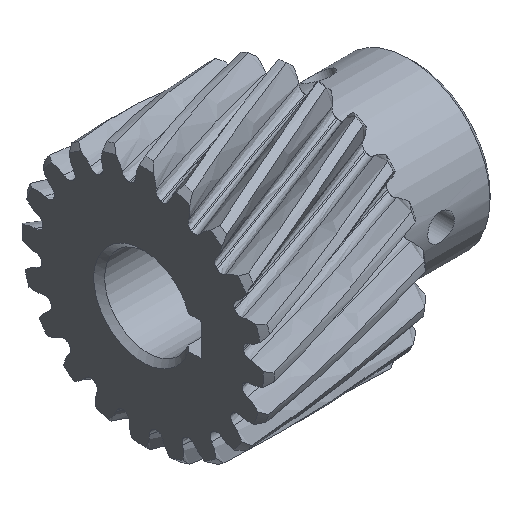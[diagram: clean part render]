
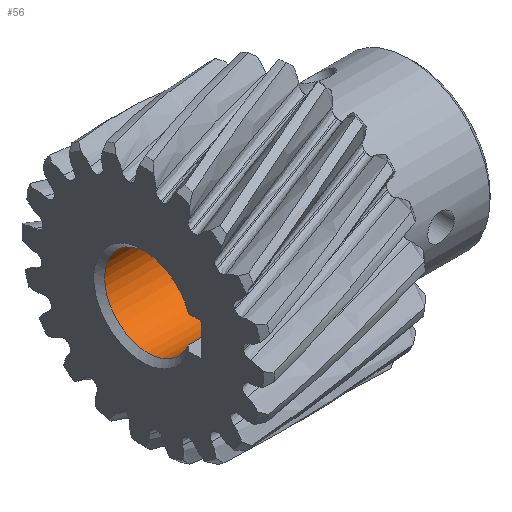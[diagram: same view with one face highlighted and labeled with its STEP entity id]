
A CAD part, isometric view. The second image highlights one B-rep face of the part: STEP entity #56.
In plain terms, the highlighted cylindrical face has radius 4 mm (diameter 8 mm), a partial arc.
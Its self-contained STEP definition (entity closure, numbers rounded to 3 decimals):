
#56=ADVANCED_FACE('',(#1638,#1640),#1642,.F.);
#1638=FACE_BOUND('',#1639,.T.);
#1639=EDGE_LOOP('',(#8973,#8974,#8975,#8976));
#1640=FACE_BOUND('',#1641,.T.);
#1641=EDGE_LOOP('',(#8977));
#1642=CYLINDRICAL_SURFACE('',#1643,4.);
#1643=AXIS2_PLACEMENT_3D('',#1644,#1645,#1646);
#1644=CARTESIAN_POINT('',(0.,0.,0.));
#1645=DIRECTION('',(1.,0.,0.));
#1646=DIRECTION('',(0.,-0.927,-0.375));
#8973=ORIENTED_EDGE('',*,*,#9995,.F.);
#8974=ORIENTED_EDGE('',*,*,#9996,.F.);
#8975=ORIENTED_EDGE('',*,*,#9997,.F.);
#8976=ORIENTED_EDGE('',*,*,#9998,.T.);
#8977=ORIENTED_EDGE('',*,*,#9999,.T.);
#9995=EDGE_CURVE('',#10506,#10507,#10508,.F.);
#9996=EDGE_CURVE('',#10509,#10506,#10510,.T.);
#9997=EDGE_CURVE('',#10511,#10509,#10512,.T.);
#9998=EDGE_CURVE('',#10511,#10507,#10513,.T.);
#9999=EDGE_CURVE('',#10514,#10514,#10515,.T.);
#10506=VERTEX_POINT('',#11360);
#10507=VERTEX_POINT('',#11361);
#10508=CIRCLE('',#11362,4.);
#10509=VERTEX_POINT('',#11366);
#10510=LINE('',#11367,#11368);
#10511=VERTEX_POINT('',#11370);
#10512=CIRCLE('',#11371,4.);
#10513=LINE('',#11375,#11376);
#10514=VERTEX_POINT('',#11378);
#10515=(BOUNDED_CURVE()B_SPLINE_CURVE(3,
(#11379,#11380,#11381,#11382,#11383,#11384,#11385,#11386,#11387,#11388,#11389,#11390,
#11391,#11392,#11393,#11394,#11395,#11396,#11397,#11398,#11399,#11400,#11401,#11402,
#11403,#11404,#11405,#11406,#11407,#11408,#11409,#11410,#11411,#11412,#11413,#11414,
#11415,#11416,#11417,#11418,#11419,#11420,#11421,#11422,#11423,#11424,#11425,#11426,
#11427,#11428,#11429,#11430,#11431,#11432,#11433,#11434,#11435,#11436,#11437,#11438),
.UNSPECIFIED.,.T.,.F.)B_SPLINE_CURVE_WITH_KNOTS((4,1,1,1,1,1,1,1,1,1,1,1,1,1,1,1,
1,1,1,1,1,1,1,1,1,1,1,1,1,1,1,1,1,1,1,1,1,1,1,1,1,1,1,1,1,1,1,1,1,1,1,1,1,1,1,1,
1,4),
(0.,0.02,0.04,0.06,0.077,0.093,
0.107,0.122,0.146,0.171,0.196,
0.218,0.239,0.258,0.272,0.285,
0.3,0.315,0.339,0.362,0.385,
0.4,0.414,0.43,0.448,0.467,
0.483,0.495,0.505,0.515,0.529,
0.546,0.567,0.585,0.6,0.614,
0.63,0.647,0.666,0.684,0.702,
0.719,0.735,0.749,0.763,0.781,
0.8,0.821,0.837,0.853,0.875,
0.9,0.924,0.942,0.955,0.966,
0.981,1.),
.UNSPECIFIED.)CURVE()GEOMETRIC_REPRESENTATION_ITEM()RATIONAL_B_SPLINE_CURVE((1.,
1.,1.,1.,1.,1.,1.,1.,1.,1.,1.,1.,1.,1.,1.,1.,1.,1.,1.,1.,1.,1.,1.,1.,1.,1.,1.,1.,
1.,1.,1.,1.,1.,1.,1.,1.,1.,1.,1.,1.,1.,1.,1.,1.,1.,1.,1.,1.,1.,1.,1.,1.,1.,1.,1.,
1.,1.,1.,1.,1.))REPRESENTATION_ITEM(''));
#11360=CARTESIAN_POINT('',(24.5,-3.708,1.5));
#11361=CARTESIAN_POINT('',(24.5,-3.708,-1.5));
#11362=AXIS2_PLACEMENT_3D('',#11363,#11364,#11365);
#11363=CARTESIAN_POINT('',(24.5,0.,0.));
#11364=DIRECTION('',(1.,0.,0.));
#11365=DIRECTION('',(0.,-0.927,-0.375));
#11366=CARTESIAN_POINT('',(0.5,-3.708,1.5));
#11367=CARTESIAN_POINT('',(0.5,-3.708,1.5));
#11368=VECTOR('',#11369,1.);
#11369=DIRECTION('',(1.,0.,0.));
#11370=CARTESIAN_POINT('',(0.5,-3.708,-1.5));
#11371=AXIS2_PLACEMENT_3D('',#11372,#11373,#11374);
#11372=CARTESIAN_POINT('',(0.5,0.,0.));
#11373=DIRECTION('',(1.,0.,0.));
#11374=DIRECTION('',(0.,-0.927,-0.375));
#11375=CARTESIAN_POINT('',(0.5,-3.708,-1.5));
#11376=VECTOR('',#11377,1.);
#11377=DIRECTION('',(1.,0.,0.));
#11378=CARTESIAN_POINT('',(21.229,2.,3.464));
#11379=CARTESIAN_POINT('',(21.229,2.,3.464));
#11380=CARTESIAN_POINT('',(21.229,2.045,3.438));
#11381=CARTESIAN_POINT('',(21.223,2.133,3.385));
#11382=CARTESIAN_POINT('',(21.194,2.26,3.301));
#11383=CARTESIAN_POINT('',(21.148,2.376,3.219));
#11384=CARTESIAN_POINT('',(21.091,2.475,3.143));
#11385=CARTESIAN_POINT('',(21.029,2.557,3.076));
#11386=CARTESIAN_POINT('',(20.961,2.63,3.015));
#11387=CARTESIAN_POINT('',(20.87,2.708,2.945));
#11388=CARTESIAN_POINT('',(20.748,2.789,2.868));
#11389=CARTESIAN_POINT('',(20.589,2.865,2.792));
#11390=CARTESIAN_POINT('',(20.419,2.919,2.735));
#11391=CARTESIAN_POINT('',(20.249,2.953,2.699));
#11392=CARTESIAN_POINT('',(20.09,2.968,2.682));
#11393=CARTESIAN_POINT('',(19.952,2.969,2.681));
#11394=CARTESIAN_POINT('',(19.833,2.961,2.69));
#11395=CARTESIAN_POINT('',(19.727,2.947,2.704));
#11396=CARTESIAN_POINT('',(19.618,2.926,2.727));
#11397=CARTESIAN_POINT('',(19.489,2.891,2.765));
#11398=CARTESIAN_POINT('',(19.347,2.837,2.82));
#11399=CARTESIAN_POINT('',(19.204,2.76,2.896));
#11400=CARTESIAN_POINT('',(19.091,2.677,2.973));
#11401=CARTESIAN_POINT('',(19.007,2.597,3.043));
#11402=CARTESIAN_POINT('',(18.943,2.521,3.106));
#11403=CARTESIAN_POINT('',(18.884,2.435,3.174));
#11404=CARTESIAN_POINT('',(18.833,2.333,3.25));
#11405=CARTESIAN_POINT('',(18.797,2.225,3.325));
#11406=CARTESIAN_POINT('',(18.777,2.123,3.391));
#11407=CARTESIAN_POINT('',(18.77,2.039,3.442));
#11408=CARTESIAN_POINT('',(18.77,1.966,3.484));
#11409=CARTESIAN_POINT('',(18.776,1.889,3.526));
#11410=CARTESIAN_POINT('',(18.791,1.795,3.575));
#11411=CARTESIAN_POINT('',(18.823,1.676,3.633));
#11412=CARTESIAN_POINT('',(18.873,1.552,3.687));
#11413=CARTESIAN_POINT('',(18.937,1.437,3.734));
#11414=CARTESIAN_POINT('',(19.004,1.34,3.769));
#11415=CARTESIAN_POINT('',(19.076,1.254,3.799));
#11416=CARTESIAN_POINT('',(19.159,1.169,3.826));
#11417=CARTESIAN_POINT('',(19.259,1.086,3.85));
#11418=CARTESIAN_POINT('',(19.375,1.008,3.871));
#11419=CARTESIAN_POINT('',(19.502,0.943,3.887));
#11420=CARTESIAN_POINT('',(19.63,0.894,3.899));
#11421=CARTESIAN_POINT('',(19.757,0.861,3.906));
#11422=CARTESIAN_POINT('',(19.877,0.843,3.91));
#11423=CARTESIAN_POINT('',(19.991,0.837,3.911));
#11424=CARTESIAN_POINT('',(20.11,0.841,3.91));
#11425=CARTESIAN_POINT('',(20.241,0.86,3.906));
#11426=CARTESIAN_POINT('',(20.386,0.899,3.898));
#11427=CARTESIAN_POINT('',(20.521,0.954,3.885));
#11428=CARTESIAN_POINT('',(20.641,1.019,3.868));
#11429=CARTESIAN_POINT('',(20.756,1.097,3.847));
#11430=CARTESIAN_POINT('',(20.878,1.202,3.816));
#11431=CARTESIAN_POINT('',(20.997,1.337,3.771));
#11432=CARTESIAN_POINT('',(21.088,1.476,3.719));
#11433=CARTESIAN_POINT('',(21.145,1.595,3.669));
#11434=CARTESIAN_POINT('',(21.179,1.689,3.626));
#11435=CARTESIAN_POINT('',(21.204,1.777,3.584));
#11436=CARTESIAN_POINT('',(21.224,1.88,3.531));
#11437=CARTESIAN_POINT('',(21.229,1.957,3.489));
#11438=CARTESIAN_POINT('',(21.229,2.,3.464));
